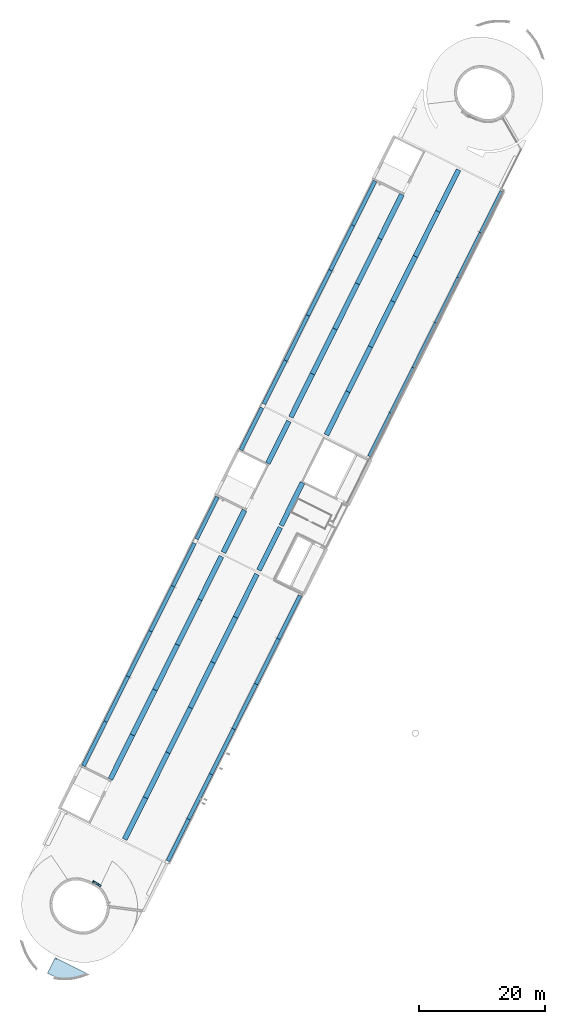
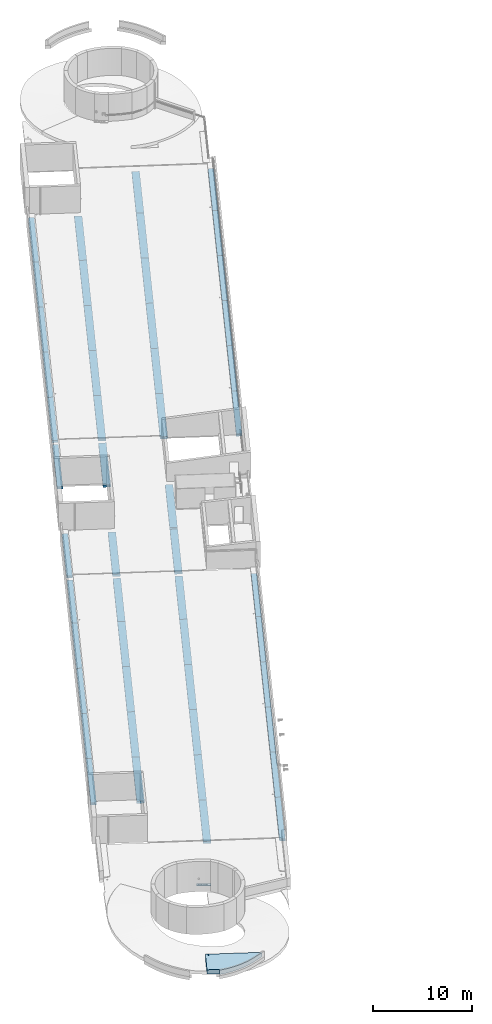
# One storey, part 1 of 34: 50 beams, 2 slabs, 5 openings.
"""IFC2X3 building model written with IfcOpenShell, lengths in metres."""

from ifc_helpers import new_model, entity, si_unit, converted_unit, derived_unit, direction, frame, frame_2d, origin, origin_2d_with_axis, place, context, subcontext, project, spatial, polyline, circle_curve, parameter, trimmed, segment, composite_curve, rectangle, circle, outline, extrude, material, layer, layer_set, layer_usage, element, save


model = new_model("IFC2X3")

# Units and contexts
model_context = context("Model", 3, precision=1e-05, world=origin(), true_north=direction((0.894925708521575, 0.446215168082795)))
context_of_model = context(None, 3, precision=1e-05, world=origin(), true_north=direction((0.894925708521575, 0.446215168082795)))
body_context = subcontext(model_context, "Body", "Model", "MODEL_VIEW")
ifc_project = project(units=[si_unit("LENGTHUNIT", "METRE"), si_unit("AREAUNIT", "SQUARE_METRE"), si_unit("VOLUMEUNIT", "CUBIC_METRE"), converted_unit("PLANEANGLEUNIT", "DEGREE", entity("IfcRatioMeasure", 0.0174532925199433), si_unit("PLANEANGLEUNIT", "RADIAN"), dimensions=[0, 0, 0, 0, 0, 0, 0]), si_unit("MASSUNIT", "GRAM", prefix="KILO"), si_unit("TIMEUNIT", "SECOND"), si_unit("FREQUENCYUNIT", "HERTZ"), si_unit("THERMODYNAMICTEMPERATUREUNIT", "DEGREE_CELSIUS"), derived_unit("THERMALTRANSMITTANCEUNIT", [(si_unit("MASSUNIT", "GRAM", prefix="KILO"), 1), (si_unit("THERMODYNAMICTEMPERATUREUNIT", "KELVIN"), -1), (si_unit("TIMEUNIT", "SECOND"), -3)]), derived_unit("VOLUMETRICFLOWRATEUNIT", [(si_unit("LENGTHUNIT", "METRE"), 3), (si_unit("TIMEUNIT", "SECOND"), -1)]), si_unit("ELECTRICCURRENTUNIT", "AMPERE"), si_unit("ELECTRICVOLTAGEUNIT", "VOLT"), si_unit("POWERUNIT", "WATT"), si_unit("FORCEUNIT", "NEWTON", prefix="KILO"), si_unit("ILLUMINANCEUNIT", "LUX"), si_unit("LUMINOUSFLUXUNIT", "LUMEN"), si_unit("LUMINOUSINTENSITYUNIT", "CANDELA"), si_unit("PRESSUREUNIT", "PASCAL")], contexts=[model_context, context_of_model])

# Site, building, storey
site_placement = place(None, frame((218.228324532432, 584.720189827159, 0.0), z_axis=(0.0, 0.0, 1.0), x_axis=(0.446215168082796, 0.894925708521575, 0.0)))
site = spatial("IfcSite", under=ifc_project, at=site_placement, Name="Default", CompositionType="ELEMENT")
building_placement = place(site_placement, origin())
building = spatial("IfcBuilding", under=site, at=building_placement, CompositionType="ELEMENT")
storey_placement = place(building_placement, frame((0.0, 0.0, 8.61)))
storey = spatial("IfcBuildingStorey", under=building, at=storey_placement, Name="2 - Piano Secondo", CompositionType="ELEMENT", Elevation=8.61)

# Beams
beam_1_placement = place(storey_placement, frame((-52.8544493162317, 5.81892100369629, -0.4)))
element("IfcBeam", 1, at=beam_1_placement, inside=storey, Name="Prefabbricato - Trave rettangolare:TRave pref - 60 x 26", ObjectType="Prefabbricato - Trave rettangolare:TRave pref - 60 x 26", context=body_context, shape_type="SweptSolid", body=[
    extrude(rectangle(XDim=0.259999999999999, YDim=0.600000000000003, at=frame_2d((0.0, 2.54518628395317e-14), x_axis=(1.0, 0.0))), frame((0.154999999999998, 0.0, -0.130000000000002), z_axis=(1.0, 0.0, 0.0), x_axis=(0.0, 0.0, -1.0)), (0.0, 0.0, 1.0), 7.844),
])
beam_2_placement = place(storey_placement, frame((-44.8544493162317, 5.81892100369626, -0.4)))
element("IfcBeam", 2, at=beam_2_placement, inside=storey, Name="Prefabbricato - Trave rettangolare:TRave pref - 60 x 26", ObjectType="Prefabbricato - Trave rettangolare:TRave pref - 60 x 26", context=body_context, shape_type="SweptSolid", body=[
    extrude(rectangle(XDim=0.259999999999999, YDim=0.600000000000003, at=frame_2d((0.0, 2.49245069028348e-14), x_axis=(1.0, 0.0))), frame((0.000298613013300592, 0.0, -0.130000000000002), z_axis=(1.0, 0.0, 0.0), x_axis=(0.0, 0.0, -1.0)), (0.0, 0.0, 1.0), 8.00600000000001),
])
for number, where in (
    (3, (-36.587852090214, 5.81892100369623, -0.4)),
    (4, (-28.5822204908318, 5.81892100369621, -0.4)),
):
    element("IfcBeam", number, at=place(storey_placement, frame(where)), inside=storey, Name="Prefabbricato - Trave rettangolare:TRave pref - 60 x 26", ObjectType="Prefabbricato - Trave rettangolare:TRave pref - 60 x 26", context=body_context, shape_type="SweptSolid", body=[
        extrude(rectangle(XDim=0.259999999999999, YDim=0.600000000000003, at=frame_2d((0.0, 2.49245069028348e-14), x_axis=(1.0, 0.0))), frame((-0.259593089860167, 0.0, -0.130000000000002), z_axis=(1.0, 0.0, 0.0), x_axis=(0.0, 0.0, -1.0)), (0.0, 0.0, 1.0), 8.002),
    ])
beam_3_placement = place(storey_placement, frame((-20.5643716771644, 5.81892100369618, -0.4)))
element("IfcBeam", 5, at=beam_3_placement, inside=storey, Name="Prefabbricato - Trave rettangolare:TRave pref - 60 x 26", ObjectType="Prefabbricato - Trave rettangolare:TRave pref - 60 x 26", context=body_context, shape_type="SweptSolid", body=[
    extrude(rectangle(XDim=0.259999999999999, YDim=0.600000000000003, at=frame_2d((0.0, 2.32869279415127e-14), x_axis=(1.0, 0.0))), frame((-0.260000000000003, 0.0, -0.130000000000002), z_axis=(1.0, 0.0, 0.0), x_axis=(0.0, 0.0, -1.0)), (0.0, 0.0, 1.0), 7.62),
])
beam_4_placement = place(storey_placement, frame((11.4942149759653, 5.81892100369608, -0.4)))
element("IfcBeam", 6, at=beam_4_placement, inside=storey, Name="Prefabbricato - Trave rettangolare:TRave pref - 60 x 26", ObjectType="Prefabbricato - Trave rettangolare:TRave pref - 60 x 26", context=body_context, shape_type="SweptSolid", body=[
    extrude(rectangle(XDim=0.259999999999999, YDim=0.600000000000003, at=frame_2d((0.0, 2.54518628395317e-14), x_axis=(1.0, 0.0))), frame((0.0, 0.0, -0.130000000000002), z_axis=(1.0, 0.0, 0.0), x_axis=(0.0, 0.0, -1.0)), (0.0, 0.0, 1.0), 7.68),
])
beam_5_placement = place(storey_placement, frame((26.9090451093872, 5.81892100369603, -0.4), z_axis=(0.0, 0.0, 1.0), x_axis=(-1.0, 0.0, 0.0)))
element("IfcBeam", 7, at=beam_5_placement, inside=storey, Name="Prefabbricato - Trave rettangolare:TRave pref - 60 x 26", ObjectType="Prefabbricato - Trave rettangolare:TRave pref - 60 x 26", context=body_context, shape_type="SweptSolid", body=[
    extrude(rectangle(XDim=0.259999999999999, YDim=0.600000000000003, at=frame_2d((0.0, 2.49245069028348e-14), x_axis=(1.0, 0.0))), frame((-0.259892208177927, 0.0, -0.130000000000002), z_axis=(1.0, 0.0, 0.0), x_axis=(0.0, 0.0, -1.0)), (0.0, 0.0, 1.0), 7.993),
])
beam_6_placement = place(storey_placement, frame((27.4290451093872, 5.81892100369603, -0.4)))
element("IfcBeam", 8, at=beam_6_placement, inside=storey, Name="Prefabbricato - Trave rettangolare:TRave pref - 60 x 26", ObjectType="Prefabbricato - Trave rettangolare:TRave pref - 60 x 26", context=body_context, shape_type="SweptSolid", body=[
    extrude(rectangle(XDim=0.259999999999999, YDim=0.600000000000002, at=frame_2d((0.0, 2.48967513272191e-14), x_axis=(1.0, 0.0))), frame((-0.260000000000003, 0.0, -0.130000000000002), z_axis=(1.0, 0.0, 0.0), x_axis=(0.0, 0.0, -1.0)), (0.0, 0.0, 1.0), 8.01000000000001),
])
beam_7_placement = place(storey_placement, frame((42.8996023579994, 5.81892100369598, -0.4), z_axis=(0.0, 0.0, 1.0), x_axis=(-1.0, 0.0, 0.0)))
element("IfcBeam", 9, at=beam_7_placement, inside=storey, Name="Prefabbricato - Trave rettangolare:TRave pref - 60 x 26", ObjectType="Prefabbricato - Trave rettangolare:TRave pref - 60 x 26", context=body_context, shape_type="SweptSolid", body=[
    extrude(rectangle(XDim=0.259999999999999, YDim=0.600000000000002, at=frame_2d((0.0, 2.48967513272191e-14), x_axis=(1.0, 0.0))), frame((-0.249946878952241, 0.0, -0.130000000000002), z_axis=(1.0, 0.0, 0.0), x_axis=(0.0, 0.0, -1.0)), (0.0, 0.0, 1.0), 7.9705041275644),
])
beam_8_placement = place(storey_placement, frame((43.4199369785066, 5.81892100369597, -0.4)))
element("IfcBeam", 10, at=beam_8_placement, inside=storey, Name="Prefabbricato - Trave rettangolare:TRave pref - 60 x 26", ObjectType="Prefabbricato - Trave rettangolare:TRave pref - 60 x 26", context=body_context, shape_type="SweptSolid", body=[
    extrude(rectangle(XDim=0.259999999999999, YDim=0.600000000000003, at=frame_2d((0.0, 2.48967513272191e-14), x_axis=(1.0, 0.0))), frame((-0.259500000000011, 0.0, -0.130000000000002), z_axis=(1.0, 0.0, 0.0), x_axis=(0.0, 0.0, -1.0)), (0.0, 0.0, 1.0), 7.844),
])
beam_9_placement = place(storey_placement, frame((3.159214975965, 5.81892100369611, -0.4)))
element("IfcBeam", 11, at=beam_9_placement, inside=storey, Name="Prefabbricato - Trave rettangolare:TRave pref - 60 x 26", ObjectType="Prefabbricato - Trave rettangolare:TRave pref - 60 x 26", context=body_context, shape_type="SweptSolid", body=[
    extrude(rectangle(XDim=0.259999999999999, YDim=0.600000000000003, at=frame_2d((0.0, 2.38142838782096e-14), x_axis=(1.0, 0.0))), frame((0.155274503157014, 0.0, -0.130000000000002), z_axis=(1.0, 0.0, 0.0), x_axis=(0.0, 0.0, -1.0)), (0.0, 0.0, 1.0), 7.494),
])
beam_10_placement = place(storey_placement, frame((19.1758295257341, -5.25107899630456, -0.4), z_axis=(0.0, 0.0, 1.0), x_axis=(-1.0, 0.0, 0.0)))
element("IfcBeam", 12, at=beam_10_placement, inside=storey, Name="Prefabbricato - Trave rettangolare:TRave pref - 80 x 26", ObjectType="Prefabbricato - Trave rettangolare:TRave pref - 80 x 26", context=body_context, shape_type="SweptSolid", body=[
    extrude(rectangle(XDim=0.259999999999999, YDim=0.800000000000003, at=frame_2d((0.0, 2.54518628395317e-14), x_axis=(1.0, 0.0))), frame((0.000307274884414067, 0.0, -0.130000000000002), z_axis=(1.0, 0.0, 0.0), x_axis=(0.0, 0.0, -1.0)), (0.0, 0.0, 1.0), 7.676),
])
beam_11_placement = place(storey_placement, frame((11.4942149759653, -12.9010789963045, -0.4)))
element("IfcBeam", 13, at=beam_11_placement, inside=storey, Name="Prefabbricato - Trave rettangolare:TRave pref - 60 x 26", ObjectType="Prefabbricato - Trave rettangolare:TRave pref - 60 x 26", context=body_context, shape_type="SweptSolid", body=[
    extrude(rectangle(XDim=0.259999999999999, YDim=0.600000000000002, at=frame_2d((0.0, 2.49245069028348e-14), x_axis=(1.0, 0.0))), frame((0.00050000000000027, 0.0, -0.130000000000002), z_axis=(1.0, 0.0, 0.0), x_axis=(0.0, 0.0, -1.0)), (0.0, 0.0, 1.0), 7.679),
])
beam_12_placement = place(storey_placement, frame((51.1583430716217, -5.25107899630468, -0.4)))
element("IfcBeam", 14, at=beam_12_placement, inside=storey, Name="Prefabbricato - Trave rettangolare:TRave pref - 80 x 26", ObjectType="Prefabbricato - Trave rettangolare:TRave pref - 80 x 26", context=body_context, shape_type="SweptSolid", body=[
    extrude(rectangle(XDim=0.259999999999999, YDim=0.800000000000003, at=frame_2d((0.0, 4.81836792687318e-14), x_axis=(1.0, 0.0))), frame((0.000999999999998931, 0.0, -0.130000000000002), z_axis=(1.0, 0.0, 0.0), x_axis=(0.0, 0.0, -1.0)), (0.0, 0.0, 1.0), 7.37660000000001),
])
beam_13_placement = place(storey_placement, frame((51.1542149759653, -12.9010789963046, -0.4)))
element("IfcBeam", 15, at=beam_13_placement, inside=storey, Name="Prefabbricato - Trave rettangolare:TRave pref - 60 x 26", ObjectType="Prefabbricato - Trave rettangolare:TRave pref - 60 x 26", context=body_context, shape_type="SweptSolid", body=[
    extrude(rectangle(XDim=0.259999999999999, YDim=0.600000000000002, at=frame_2d((0.0, 2.49245069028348e-14), x_axis=(1.0, 0.0))), frame((0.000111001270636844, 0.0, -0.130000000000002), z_axis=(1.0, 0.0, 0.0), x_axis=(0.0, 0.0, -1.0)), (0.0, 0.0, 1.0), 7.38200000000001),
])
beam_14_placement = place(storey_placement, frame((43.1596023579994, 1.04892100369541, -0.4)))
element("IfcBeam", 16, at=beam_14_placement, inside=storey, Name="Prefabbricato - Trave rettangolare:TRave pref - 80 x 26", ObjectType="Prefabbricato - Trave rettangolare:TRave pref - 80 x 26", context=body_context, shape_type="SweptSolid", body=[
    extrude(rectangle(XDim=0.259999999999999, YDim=0.800000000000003, at=frame_2d((0.0, 2.49245069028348e-14), x_axis=(1.0, 0.0))), frame((0.000167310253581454, 0.0, -0.130000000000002), z_axis=(1.0, 0.0, 0.0), x_axis=(0.0, 0.0, -1.0)), (0.0, 0.0, 1.0), 7.83600000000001),
])
beam_15_placement = place(storey_placement, frame((-20.8386212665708, -5.25107899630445, -0.4)))
element("IfcBeam", 17, at=beam_15_placement, inside=storey, Name="Prefabbricato - Trave rettangolare:TRave pref - 80 x 26", ObjectType="Prefabbricato - Trave rettangolare:TRave pref - 80 x 26", context=body_context, shape_type="SweptSolid", body=[
    extrude(rectangle(XDim=0.259999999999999, YDim=0.800000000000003, at=frame_2d((0.0, 2.08444372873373e-14), x_axis=(1.0, 0.0))), frame((0.000124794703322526, 0.0, -0.130000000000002), z_axis=(1.0, 0.0, 0.0), x_axis=(0.0, 0.0, -1.0)), (0.0, 0.0, 1.0), 7.654),
])
beam_16_placement = place(storey_placement, frame((-20.8386212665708, 1.04892100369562, -0.4)))
element("IfcBeam", 18, at=beam_16_placement, inside=storey, Name="Prefabbricato - Trave rettangolare:TRave pref - 80 x 26", ObjectType="Prefabbricato - Trave rettangolare:TRave pref - 80 x 26", context=body_context, shape_type="SweptSolid", body=[
    extrude(rectangle(XDim=0.259999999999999, YDim=0.800000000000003, at=frame_2d((0.0, -5.4570237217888e-13), x_axis=(1.0, 0.0))), frame((0.000124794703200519, 0.0, -0.130000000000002), z_axis=(1.0, 0.0, 0.0), x_axis=(0.0, 0.0, -1.0)), (0.0, 0.0, 1.0), 7.654),
])
beam_17_placement = place(storey_placement, frame((-12.4824338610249, 5.81892100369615, -0.4)))
element("IfcBeam", 19, at=beam_17_placement, inside=storey, Name="Prefabbricato - Trave rettangolare:TRave pref - 60 x 26", ObjectType="Prefabbricato - Trave rettangolare:TRave pref - 60 x 26", context=body_context, shape_type="SweptSolid", body=[
    extrude(rectangle(XDim=0.259999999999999, YDim=0.600000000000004, at=frame_2d((0.0, 2.32869279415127e-14), x_axis=(1.0, 0.0))), frame((0.0, 0.0, -0.130000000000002), z_axis=(1.0, 0.0, 0.0), x_axis=(0.0, 0.0, -1.0)), (0.0, 0.0, 1.0), 7.48),
])
beam_18_placement = place(storey_placement, frame((-12.4843716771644, 1.04892100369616, -0.4)))
element("IfcBeam", 20, at=beam_18_placement, inside=storey, Name="Prefabbricato - Trave rettangolare:TRave pref - 80 x 26", ObjectType="Prefabbricato - Trave rettangolare:TRave pref - 80 x 26", context=body_context, shape_type="SweptSolid", body=[
    extrude(rectangle(XDim=0.259999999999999, YDim=0.800000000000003, at=frame_2d((0.0, 2.35644836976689e-14), x_axis=(1.0, 0.0))), frame((0.0, 0.0, -0.130000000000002), z_axis=(1.0, 0.0, 0.0), x_axis=(0.0, 0.0, -1.0)), (0.0, 0.0, 1.0), 7.498),
])
beam_19_placement = place(storey_placement, frame((-13.4443716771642, -12.9010789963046, -0.4), z_axis=(0.0, 0.0, 1.0), x_axis=(-1.0, 0.0, 0.0)))
element("IfcBeam", 21, at=beam_19_placement, inside=storey, Name="Prefabbricato - Trave rettangolare:TRave pref - 60 x 26", ObjectType="Prefabbricato - Trave rettangolare:TRave pref - 60 x 26", context=body_context, shape_type="SweptSolid", body=[
    extrude(rectangle(XDim=0.259999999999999, YDim=0.600000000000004, at=frame_2d((0.0, 2.48967513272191e-14), x_axis=(1.0, 0.0))), frame((-0.259500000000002, 0.0, -0.130000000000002), z_axis=(1.0, 0.0, 0.0), x_axis=(0.0, 0.0, -1.0)), (0.0, 0.0, 1.0), 7.659),
])
beam_20_placement = place(storey_placement, frame((-60.2237614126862, -5.25107899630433, -0.4)))
element("IfcBeam", 22, at=beam_20_placement, inside=storey, Name="Prefabbricato - Trave rettangolare:TRave pref - 80 x 26", ObjectType="Prefabbricato - Trave rettangolare:TRave pref - 80 x 26", context=body_context, shape_type="SweptSolid", body=[
    extrude(rectangle(XDim=0.259999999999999, YDim=0.800000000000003, at=frame_2d((0.0, 2.11219930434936e-14), x_axis=(1.0, 0.0))), frame((0.0, 0.0, -0.130000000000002), z_axis=(1.0, 0.0, 0.0), x_axis=(0.0, 0.0, -1.0)), (0.0, 0.0, 1.0), 7.37900000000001),
])
beam_21_placement = place(storey_placement, frame((-52.6975115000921, 1.04892100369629, -0.4)))
element("IfcBeam", 23, at=beam_21_placement, inside=storey, Name="Prefabbricato - Trave rettangolare:TRave pref - 80 x 26", ObjectType="Prefabbricato - Trave rettangolare:TRave pref - 80 x 26", context=body_context, shape_type="SweptSolid", body=[
    extrude(rectangle(XDim=0.259999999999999, YDim=0.800000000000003, at=frame_2d((0.0, 5.95024030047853e-13), x_axis=(1.0, 0.0))), frame((0.000422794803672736, 0.0, -0.130000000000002), z_axis=(1.0, 0.0, 0.0), x_axis=(0.0, 0.0, -1.0)), (0.0, 0.0, 1.0), 7.84600000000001),
])
beam_22_placement = place(storey_placement, frame((-12.4829583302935, -5.25107899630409, -0.4)))
element("IfcBeam", 24, at=beam_22_placement, inside=storey, Name="Prefabbricato - Trave rettangolare:TRave pref - 80 x 26", ObjectType="Prefabbricato - Trave rettangolare:TRave pref - 80 x 26", context=body_context, shape_type="SweptSolid", body=[
    extrude(rectangle(XDim=0.259999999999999, YDim=0.800000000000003, at=frame_2d((0.0, 2.40918396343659e-14), x_axis=(1.0, 0.0))), frame((0.0, 0.0, -0.130000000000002), z_axis=(1.0, 0.0, 0.0), x_axis=(0.0, 0.0, -1.0)), (0.0, 0.0, 1.0), 7.605),
])
beam_23_placement = place(storey_placement, frame((-44.8506659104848, 1.04892100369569, -0.4)))
element("IfcBeam", 25, at=beam_23_placement, inside=storey, Name="Prefabbricato - Trave rettangolare:TRave pref - 80 x 26", ObjectType="Prefabbricato - Trave rettangolare:TRave pref - 80 x 26", context=body_context, shape_type="SweptSolid", body=[
    extrude(rectangle(XDim=0.259999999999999, YDim=0.800000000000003, at=frame_2d((0.0, 2.59237076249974e-14), x_axis=(1.0, 0.0))), frame((0.000406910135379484, 0.0, -0.130000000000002), z_axis=(1.0, 0.0, 0.0), x_axis=(0.0, 0.0, -1.0)), (0.0, 0.0, 1.0), 8.002),
])
beam_24_placement = place(storey_placement, frame((-36.847852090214, 1.04892100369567, -0.4)))
element("IfcBeam", 26, at=beam_24_placement, inside=storey, Name="Prefabbricato - Trave rettangolare:TRave pref - 80 x 26", ObjectType="Prefabbricato - Trave rettangolare:TRave pref - 80 x 26", context=body_context, shape_type="SweptSolid", body=[
    extrude(rectangle(XDim=0.259999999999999, YDim=0.800000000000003, at=frame_2d((0.0, 2.59237076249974e-14), x_axis=(1.0, 0.0))), frame((0.000315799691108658, 0.0, -0.130000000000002), z_axis=(1.0, 0.0, 0.0), x_axis=(0.0, 0.0, -1.0)), (0.0, 0.0, 1.0), 8.005),
])
beam_25_placement = place(storey_placement, frame((-28.8422204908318, 1.04892100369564, -0.4)))
element("IfcBeam", 27, at=beam_25_placement, inside=storey, Name="Prefabbricato - Trave rettangolare:TRave pref - 80 x 26", ObjectType="Prefabbricato - Trave rettangolare:TRave pref - 80 x 26", context=body_context, shape_type="SweptSolid", body=[
    extrude(rectangle(XDim=0.259999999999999, YDim=0.800000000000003, at=frame_2d((0.0, 2.59237076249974e-14), x_axis=(1.0, 0.0))), frame((0.000299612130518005, 0.0, -0.130000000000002), z_axis=(1.0, 0.0, 0.0), x_axis=(0.0, 0.0, -1.0)), (0.0, 0.0, 1.0), 8.003),
])
beam_26_placement = place(storey_placement, frame((-20.8443716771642, -12.9010789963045, -0.4), z_axis=(0.0, 0.0, 1.0), x_axis=(-1.0, 0.0, 0.0)))
element("IfcBeam", 28, at=beam_26_placement, inside=storey, Name="Prefabbricato - Trave rettangolare:TRave pref - 60 x 26", ObjectType="Prefabbricato - Trave rettangolare:TRave pref - 60 x 26", context=body_context, shape_type="SweptSolid", body=[
    extrude(rectangle(XDim=0.259999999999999, YDim=0.600000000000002, at=frame_2d((0.0, 2.70616862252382e-14), x_axis=(1.0, 0.0))), frame((0.000999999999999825, 0.0, -0.130000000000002), z_axis=(1.0, 0.0, 0.0), x_axis=(0.0, 0.0, -1.0)), (0.0, 0.0, 1.0), 7.999),
])
beam_27_placement = place(storey_placement, frame((-28.8443716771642, -12.9010789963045, -0.4), z_axis=(0.0, 0.0, 1.0), x_axis=(-1.0, 0.0, 0.0)))
element("IfcBeam", 29, at=beam_27_placement, inside=storey, Name="Prefabbricato - Trave rettangolare:TRave pref - 60 x 26", ObjectType="Prefabbricato - Trave rettangolare:TRave pref - 60 x 26", context=body_context, shape_type="SweptSolid", body=[
    extrude(rectangle(XDim=0.259999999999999, YDim=0.600000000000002, at=frame_2d((0.0, 2.70616862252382e-14), x_axis=(1.0, 0.0))), frame((0.000249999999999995, 0.0, -0.130000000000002), z_axis=(1.0, 0.0, 0.0), x_axis=(0.0, 0.0, -1.0)), (0.0, 0.0, 1.0), 8.0),
])
beam_28_placement = place(storey_placement, frame((-36.8448716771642, -12.9010789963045, -0.4), z_axis=(0.0, 0.0, 1.0), x_axis=(-1.0, 0.0, 0.0)))
element("IfcBeam", 30, at=beam_28_placement, inside=storey, Name="Prefabbricato - Trave rettangolare:TRave pref - 60 x 26", ObjectType="Prefabbricato - Trave rettangolare:TRave pref - 60 x 26", context=body_context, shape_type="SweptSolid", body=[
    extrude(rectangle(XDim=0.259999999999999, YDim=0.600000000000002, at=frame_2d((0.0, 2.70616862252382e-14), x_axis=(1.0, 0.0))), frame((0.00012500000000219, 0.0, -0.130000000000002), z_axis=(1.0, 0.0, 0.0), x_axis=(0.0, 0.0, -1.0)), (0.0, 0.0, 1.0), 8.0),
])
beam_29_placement = place(storey_placement, frame((-44.8451216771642, -12.9010789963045, -0.4), z_axis=(0.0, 0.0, 1.0), x_axis=(-1.0, 0.0, 0.0)))
element("IfcBeam", 31, at=beam_29_placement, inside=storey, Name="Prefabbricato - Trave rettangolare:TRave pref - 60 x 26", ObjectType="Prefabbricato - Trave rettangolare:TRave pref - 60 x 26", context=body_context, shape_type="SweptSolid", body=[
    extrude(rectangle(XDim=0.259999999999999, YDim=0.600000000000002, at=frame_2d((0.0, 2.70616862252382e-14), x_axis=(1.0, 0.0))), frame((6.2499999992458e-05, 0.0, -0.130000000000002), z_axis=(1.0, 0.0, 0.0), x_axis=(0.0, 0.0, -1.0)), (0.0, 0.0, 1.0), 7.999),
])
beam_30_placement = place(storey_placement, frame((-52.8442466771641, -12.9010789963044, -0.4), z_axis=(0.0, 0.0, 1.0), x_axis=(-1.0, 0.0, 0.0)))
element("IfcBeam", 32, at=beam_30_placement, inside=storey, Name="Prefabbricato - Trave rettangolare:TRave pref - 60 x 26", ObjectType="Prefabbricato - Trave rettangolare:TRave pref - 60 x 26", context=body_context, shape_type="SweptSolid", body=[
    extrude(rectangle(XDim=0.259999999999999, YDim=0.600000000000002, at=frame_2d((0.0, 2.49245069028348e-14), x_axis=(1.0, 0.0))), frame((6.25000000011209e-05, 0.0, -0.130000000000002), z_axis=(1.0, 0.0, 0.0), x_axis=(0.0, 0.0, -1.0)), (0.0, 0.0, 1.0), 7.38000000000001),
])
beam_31_placement = place(storey_placement, frame((-52.8437614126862, -5.25107899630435, -0.4)))
element("IfcBeam", 33, at=beam_31_placement, inside=storey, Name="Prefabbricato - Trave rettangolare:TRave pref - 80 x 26", ObjectType="Prefabbricato - Trave rettangolare:TRave pref - 80 x 26", context=body_context, shape_type="SweptSolid", body=[
    extrude(rectangle(XDim=0.259999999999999, YDim=0.800000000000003, at=frame_2d((0.0, 2.51743070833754e-14), x_axis=(1.0, 0.0))), frame((4.77511007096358e-05, 0.0, -0.130000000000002), z_axis=(1.0, 0.0, 0.0), x_axis=(0.0, 0.0, -1.0)), (0.0, 0.0, 1.0), 7.993),
])
beam_32_placement = place(storey_placement, frame((-36.847852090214, -5.2510789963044, -0.4)))
element("IfcBeam", 34, at=beam_32_placement, inside=storey, Name="Prefabbricato - Trave rettangolare:TRave pref - 80 x 26", ObjectType="Prefabbricato - Trave rettangolare:TRave pref - 80 x 26", context=body_context, shape_type="SweptSolid", body=[
    extrude(rectangle(XDim=0.259999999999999, YDim=0.800000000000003, at=frame_2d((0.0, 2.54518628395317e-14), x_axis=(1.0, 0.0))), frame((0.000315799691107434, 0.0, -0.130000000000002), z_axis=(1.0, 0.0, 0.0), x_axis=(0.0, 0.0, -1.0)), (0.0, 0.0, 1.0), 8.005),
])
beam_33_placement = place(storey_placement, frame((-44.8506659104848, -5.25107899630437, -0.4)))
element("IfcBeam", 35, at=beam_33_placement, inside=storey, Name="Prefabbricato - Trave rettangolare:TRave pref - 80 x 26", ObjectType="Prefabbricato - Trave rettangolare:TRave pref - 80 x 26", context=body_context, shape_type="SweptSolid", body=[
    extrude(rectangle(XDim=0.259999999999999, YDim=0.800000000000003, at=frame_2d((0.0, 2.54518628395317e-14), x_axis=(1.0, 0.0))), frame((0.0004069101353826, 0.0, -0.130000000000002), z_axis=(1.0, 0.0, 0.0), x_axis=(0.0, 0.0, -1.0)), (0.0, 0.0, 1.0), 8.002),
])
beam_34_placement = place(storey_placement, frame((-28.8422204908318, -5.25107899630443, -0.4)))
element("IfcBeam", 36, at=beam_34_placement, inside=storey, Name="Prefabbricato - Trave rettangolare:TRave pref - 80 x 26", ObjectType="Prefabbricato - Trave rettangolare:TRave pref - 80 x 26", context=body_context, shape_type="SweptSolid", body=[
    extrude(rectangle(XDim=0.259999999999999, YDim=0.800000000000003, at=frame_2d((0.0, 2.51743070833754e-14), x_axis=(1.0, 0.0))), frame((0.000299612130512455, 0.0, -0.130000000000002), z_axis=(1.0, 0.0, 0.0), x_axis=(0.0, 0.0, -1.0)), (0.0, 0.0, 1.0), 8.003),
])
beam_35_placement = place(storey_placement, frame((19.1742149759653, -12.9010789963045, -0.4)))
element("IfcBeam", 37, at=beam_35_placement, inside=storey, Name="Prefabbricato - Trave rettangolare:TRave pref - 60 x 26", ObjectType="Prefabbricato - Trave rettangolare:TRave pref - 60 x 26", context=body_context, shape_type="SweptSolid", body=[
    extrude(rectangle(XDim=0.259999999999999, YDim=0.600000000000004, at=frame_2d((0.0, 2.48967513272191e-14), x_axis=(1.0, 0.0))), frame((0.000499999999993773, 0.0, -0.130000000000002), z_axis=(1.0, 0.0, 0.0), x_axis=(0.0, 0.0, -1.0)), (0.0, 0.0, 1.0), 7.999),
])
for number, where in (
    (38, (27.1742149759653, -12.9010789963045, -0.4)),
    (39, (35.1742149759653, -12.9010789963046, -0.4)),
):
    element("IfcBeam", number, at=place(storey_placement, frame(where)), inside=storey, Name="Prefabbricato - Trave rettangolare:TRave pref - 60 x 26", ObjectType="Prefabbricato - Trave rettangolare:TRave pref - 60 x 26", context=body_context, shape_type="SweptSolid", body=[
        extrude(rectangle(XDim=0.259999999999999, YDim=0.600000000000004, at=frame_2d((0.0, 2.48967513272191e-14), x_axis=(1.0, 0.0))), frame((0.0, 0.0, -0.130000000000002), z_axis=(1.0, 0.0, 0.0), x_axis=(0.0, 0.0, -1.0)), (0.0, 0.0, 1.0), 7.999),
    ])
beam_36_placement = place(storey_placement, frame((43.1742149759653, -12.9010789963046, -0.4)))
element("IfcBeam", 40, at=beam_36_placement, inside=storey, Name="Prefabbricato - Trave rettangolare:TRave pref - 60 x 26", ObjectType="Prefabbricato - Trave rettangolare:TRave pref - 60 x 26", context=body_context, shape_type="SweptSolid", body=[
    extrude(rectangle(XDim=0.259999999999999, YDim=0.600000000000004, at=frame_2d((0.0, 2.48967513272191e-14), x_axis=(1.0, 0.0))), frame((0.0, 0.0, -0.130000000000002), z_axis=(1.0, 0.0, 0.0), x_axis=(0.0, 0.0, -1.0)), (0.0, 0.0, 1.0), 7.97900000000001),
])
beam_37_placement = place(storey_placement, frame((19.1758295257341, -5.25107899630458, -0.4)))
element("IfcBeam", 41, at=beam_37_placement, inside=storey, Name="Prefabbricato - Trave rettangolare:TRave pref - 80 x 26", ObjectType="Prefabbricato - Trave rettangolare:TRave pref - 80 x 26", context=body_context, shape_type="SweptSolid", body=[
    extrude(rectangle(XDim=0.259999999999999, YDim=0.800000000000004, at=frame_2d((0.0, 2.5729418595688e-14), x_axis=(1.0, 0.0))), frame((0.000107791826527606, 0.0, -0.130000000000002), z_axis=(1.0, 0.0, 0.0), x_axis=(0.0, 0.0, -1.0)), (0.0, 0.0, 1.0), 7.993),
])
beam_38_placement = place(storey_placement, frame((27.1690451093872, -5.25107899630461, -0.4)))
element("IfcBeam", 42, at=beam_38_placement, inside=storey, Name="Prefabbricato - Trave rettangolare:TRave pref - 80 x 26", ObjectType="Prefabbricato - Trave rettangolare:TRave pref - 80 x 26", context=body_context, shape_type="SweptSolid", body=[
    extrude(rectangle(XDim=0.259999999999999, YDim=0.800000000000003, at=frame_2d((0.0, 2.65343302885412e-14), x_axis=(1.0, 0.0))), frame((0.000225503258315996, 0.0, -0.130000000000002), z_axis=(1.0, 0.0, 0.0), x_axis=(0.0, 0.0, -1.0)), (0.0, 0.0, 1.0), 7.997),
])
beam_39_placement = place(storey_placement, frame((35.1664961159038, -5.25107899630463, -0.399999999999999)))
element("IfcBeam", 43, at=beam_39_placement, inside=storey, Name="Prefabbricato - Trave rettangolare:TRave pref - 80 x 26", ObjectType="Prefabbricato - Trave rettangolare:TRave pref - 80 x 26", context=body_context, shape_type="SweptSolid", body=[
    extrude(rectangle(XDim=0.259999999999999, YDim=0.800000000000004, at=frame_2d((-1.08246744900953e-15, 2.5729418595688e-14), x_axis=(1.0, 0.0))), frame((5.31210477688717e-05, 0.0, -0.130000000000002), z_axis=(1.0, 0.0, 0.0), x_axis=(0.0, 0.0, -1.0)), (0.0, 0.0, 1.0), 7.993),
])
beam_40_placement = place(storey_placement, frame((43.1596023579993, -5.25107899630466, -0.4)))
element("IfcBeam", 44, at=beam_40_placement, inside=storey, Name="Prefabbricato - Trave rettangolare:TRave pref - 80 x 26", ObjectType="Prefabbricato - Trave rettangolare:TRave pref - 80 x 26", context=body_context, shape_type="SweptSolid", body=[
    extrude(rectangle(XDim=0.259999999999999, YDim=0.800000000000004, at=frame_2d((0.0, 2.5729418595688e-14), x_axis=(1.0, 0.0))), frame((0.00037035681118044, 0.0, -0.130000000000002), z_axis=(1.0, 0.0, 0.0), x_axis=(0.0, 0.0, -1.0)), (0.0, 0.0, 1.0), 7.998),
])
beam_41_placement = place(storey_placement, frame((3.159214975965, 1.04892100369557, -0.4)))
element("IfcBeam", 45, at=beam_41_placement, inside=storey, Name="Prefabbricato - Trave rettangolare:TRave pref - 80 x 26", ObjectType="Prefabbricato - Trave rettangolare:TRave pref - 80 x 26", context=body_context, shape_type="SweptSolid", body=[
    extrude(rectangle(XDim=0.259999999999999, YDim=0.800000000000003, at=frame_2d((0.0, 2.43693953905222e-14), x_axis=(1.0, 0.0))), frame((0.15527450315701, 0.0, -0.130000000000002), z_axis=(1.0, 0.0, 0.0), x_axis=(0.0, 0.0, -1.0)), (0.0, 0.0, 1.0), 7.494),
])
beam_42_placement = place(storey_placement, frame((19.1758295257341, 1.04892100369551, -0.4), z_axis=(0.0, 0.0, 1.0), x_axis=(-1.0, 0.0, 0.0)))
element("IfcBeam", 46, at=beam_42_placement, inside=storey, Name="Prefabbricato - Trave rettangolare:TRave pref - 80 x 26", ObjectType="Prefabbricato - Trave rettangolare:TRave pref - 80 x 26", context=body_context, shape_type="SweptSolid", body=[
    extrude(rectangle(XDim=0.259999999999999, YDim=0.800000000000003, at=frame_2d((0.0, 2.46469511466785e-14), x_axis=(1.0, 0.0))), frame((0.000307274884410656, 0.0, -0.130000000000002), z_axis=(1.0, 0.0, 0.0), x_axis=(0.0, 0.0, -1.0)), (0.0, 0.0, 1.0), 7.676),
])
beam_43_placement = place(storey_placement, frame((19.1758295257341, 1.04892100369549, -0.4)))
element("IfcBeam", 47, at=beam_43_placement, inside=storey, Name="Prefabbricato - Trave rettangolare:TRave pref - 80 x 26", ObjectType="Prefabbricato - Trave rettangolare:TRave pref - 80 x 26", context=body_context, shape_type="SweptSolid", body=[
    extrude(rectangle(XDim=0.259999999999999, YDim=0.800000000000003, at=frame_2d((0.0, 2.59237076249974e-14), x_axis=(1.0, 0.0))), frame((0.000107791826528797, 0.0, -0.130000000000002), z_axis=(1.0, 0.0, 0.0), x_axis=(0.0, 0.0, -1.0)), (0.0, 0.0, 1.0), 7.993),
])
beam_44_placement = place(storey_placement, frame((27.1690451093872, 1.04892100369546, -0.4)))
element("IfcBeam", 48, at=beam_44_placement, inside=storey, Name="Prefabbricato - Trave rettangolare:TRave pref - 80 x 26", ObjectType="Prefabbricato - Trave rettangolare:TRave pref - 80 x 26", context=body_context, shape_type="SweptSolid", body=[
    extrude(rectangle(XDim=0.259999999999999, YDim=0.800000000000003, at=frame_2d((0.0, 2.59237076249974e-14), x_axis=(1.0, 0.0))), frame((0.000225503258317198, 0.0, -0.130000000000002), z_axis=(1.0, 0.0, 0.0), x_axis=(0.0, 0.0, -1.0)), (0.0, 0.0, 1.0), 7.997),
])
beam_45_placement = place(storey_placement, frame((35.1664961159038, 1.04892100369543, -0.4)))
element("IfcBeam", 49, at=beam_45_placement, inside=storey, Name="Prefabbricato - Trave rettangolare:TRave pref - 80 x 26", ObjectType="Prefabbricato - Trave rettangolare:TRave pref - 80 x 26", context=body_context, shape_type="SweptSolid", body=[
    extrude(rectangle(XDim=0.259999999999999, YDim=0.800000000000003, at=frame_2d((0.0, 2.59237076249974e-14), x_axis=(1.0, 0.0))), frame((5.31210477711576e-05, 0.0, -0.130000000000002), z_axis=(1.0, 0.0, 0.0), x_axis=(0.0, 0.0, -1.0)), (0.0, 0.0, 1.0), 7.993),
])
beam_46_placement = place(storey_placement, frame((3.16421497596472, -5.25107899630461, -0.4), z_axis=(0.0, 0.0, 1.0), x_axis=(-1.0, 0.0, 0.0)))
element("IfcBeam", 50, at=beam_46_placement, inside=storey, Name="Prefabbricato - Trave rettangolare:TRave pref - 80 x 26", ObjectType="Prefabbricato - Trave rettangolare:TRave pref - 80 x 26", context=body_context, shape_type="SweptSolid", body=[
    extrude(rectangle(XDim=0.259999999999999, YDim=0.800000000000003, at=frame_2d((0.0, 2.43693953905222e-14), x_axis=(1.0, 0.0))), frame((0.150293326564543, 0.0, -0.130000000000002), z_axis=(1.0, 0.0, 0.0), x_axis=(0.0, 0.0, -1.0)), (0.0, 0.0, 1.0), 7.598),
])

# Slab, opening
ifc_material_1 = material(Name="Asfalto, bitume")
ifc_layer_1 = layer(ifc_material_1, 0.01)
ifc_material_2 = material(Name="Sabbia e Calcestruzzo")
ifc_layer_2 = layer(ifc_material_2, 0.18)
ifc_material_3 = material(Name="Calcestruzzo")
ifc_layer_3 = layer(ifc_material_3, 0.35)
ifc_layer_set_1 = layer_set([ifc_layer_1, ifc_layer_2, ifc_layer_3], Name="Pavimento:CA-caldana - 54 cm")
ifc_layer_usage_1 = layer_usage(ifc_layer_set_1, "AXIS3", "POSITIVE", 0.0)
slab_1_placement = place(storey_placement, frame((-84.8441530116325, -9.49178459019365, 0.340000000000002)))
slab_1 = element("IfcSlab", 51, at=slab_1_placement, inside=storey, material=ifc_layer_usage_1, Name="Pavimento:CA-caldana - 54 cm", ObjectType="Pavimento:CA-caldana - 54 cm", PredefinedType="FLOOR", context=body_context, shape_type="SweptSolid", body=[
    extrude(outline(composite_curve([segment(trimmed(circle_curve(frame_2d((-12.7415756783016, 9.57523147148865), x_axis=(-1.0, 0.0)), 16.8031286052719), [parameter(132.21142354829)], [parameter(136.826537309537)], True, "PARAMETER"), True, "CONTINUOUS"), segment(trimmed(circle_curve(frame_2d((-6.1917229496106, 3.50372242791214), x_axis=(-1.0, 0.0)), 7.8724142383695), [parameter(136.436382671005)], [parameter(166.158511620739)], True, "PARAMETER"), True, "CONTINUOUS"), segment(polyline([(1.45208662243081, 1.62035279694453), (1.30791337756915, 1.62035279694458)]), True, "CONTINUOUS"), segment(polyline([(1.30791337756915, 1.62035279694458), (1.30791337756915, 2.87035279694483)]), True, "CONTINUOUS"), segment(polyline([(1.30791337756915, 2.87035279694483), (-1.45208662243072, 2.87035279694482)]), True, "CONTINUOUS"), segment(polyline([(-1.45208662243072, 2.87035279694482), (-1.45208662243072, -2.87035279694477)]), True, "CONTINUOUS")], self_intersect=False)), frame((1.45208662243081, 2.87035279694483, 0.539999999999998), z_axis=(0.0, 0.0, -1.0), x_axis=(-1.0, 0.0, 0.0)), (0.0, 0.0, 1.0), 0.54),
])
opening_1_placement = place(slab_1_placement, frame((2.7397936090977, 5.45618718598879, 0.539999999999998)))
element("IfcOpeningElement", 52, at=opening_1_placement, cuts=slab_1, Name="Pavimento:CA-caldana - 54 cm:2", ObjectType="Opening", context=body_context, shape_type="SweptSolid", body=[
    extrude(circle(Radius=0.0600000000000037, at=origin_2d_with_axis()), frame((0.0, 0.0, 0.0), z_axis=(0.0, 0.0, -1.0), x_axis=(1.0, 0.0, 0.0)), (0.0, 0.0, 1.0), 0.54),
])

# Slab, openings
ifc_layer_4 = layer(ifc_material_1, 0.01)
ifc_layer_5 = layer(ifc_material_2, 0.09)
ifc_layer_set_2 = layer_set([ifc_layer_4, ifc_layer_5], Name="Pavimento:Marciapiede - 10 cm")
ifc_layer_usage_2 = layer_usage(ifc_layer_set_2, "AXIS3", "POSITIVE", 0.0)
slab_2_placement = place(storey_placement, frame((-68.7092661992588, -5.16597733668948, 0.0)))
slab_2 = element("IfcSlab", 53, at=slab_2_placement, inside=storey, material=ifc_layer_usage_2, Name="Pavimento:Marciapiede - 10 cm", ObjectType="Pavimento:Marciapiede - 10 cm", PredefinedType="FLOOR", context=body_context, shape_type="SweptSolid", body=[
    extrude(outline(composite_curve([segment(polyline([(0.101929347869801, 0.74607218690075), (-0.236655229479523, 0.714847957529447)]), True, "CONTINUOUS"), segment(polyline([(-0.236655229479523, 0.714847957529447), (-0.101929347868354, -0.746072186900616)]), True, "CONTINUOUS"), segment(polyline([(-0.101929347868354, -0.746072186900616), (0.207725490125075, -0.717515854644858)]), True, "CONTINUOUS"), segment(trimmed(circle_curve(frame_2d((3.69542363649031, 0.306214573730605), x_axis=(-1.0, 0.0)), 3.63484007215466), [parameter(16.2404120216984)], [parameter(16.3583405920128)], True, "PARAMETER"), False, "CONTINUOUS"), segment(trimmed(circle_curve(frame_2d((8.86715350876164, 0.638262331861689), x_axis=(-1.0, 0.0)), 8.7658871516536), [parameter(359.295313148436)], [parameter(8.84987961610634)], True, "PARAMETER"), False, "CONTINUOUS")], self_intersect=False)), frame((0.207725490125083, 0.746072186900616, 0.0999999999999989), z_axis=(0.0, 0.0, -1.0), x_axis=(-1.0, 0.0, 0.0)), (0.0, 0.0, 1.0), 0.1),
])
opening_2_placement = place(slab_2_placement, frame((0.177039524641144, 0.739898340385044, 0.0999999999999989)))
element("IfcOpeningElement", 54, at=opening_2_placement, cuts=slab_2, Name="Pavimento:Marciapiede - 10 cm:2", ObjectType="Opening", context=body_context, shape_type="SweptSolid", body=[
    extrude(circle(Radius=0.045, at=origin_2d_with_axis()), frame((0.0, 0.0, 0.0), z_axis=(0.0, 0.0, -1.0), x_axis=(1.0, 0.0, 0.0)), (0.0, 0.0, 1.0), 0.1),
])
opening_3_placement = place(slab_2_placement, frame((0.171679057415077, 0.464898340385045, 0.0999999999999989)))
element("IfcOpeningElement", 55, at=opening_3_placement, cuts=slab_2, Name="Pavimento:Marciapiede - 10 cm:3", ObjectType="Opening", context=body_context, shape_type="SweptSolid", body=[
    extrude(circle(Radius=0.085, at=origin_2d_with_axis()), frame((0.0, 0.0, 0.0), z_axis=(0.0, 0.0, -1.0), x_axis=(1.0, 0.0, 0.0)), (0.0, 0.0, 1.0), 0.1),
])
opening_4_placement = place(slab_2_placement, frame((0.226859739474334, 1.28013125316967, 0.0999999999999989)))
element("IfcOpeningElement", 56, at=opening_4_placement, cuts=slab_2, Name="Pavimento:Marciapiede - 10 cm:4", ObjectType="Opening", context=body_context, shape_type="SweptSolid", body=[
    extrude(circle(Radius=0.0800000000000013, at=origin_2d_with_axis()), frame((0.0, 0.0, 0.0), z_axis=(0.0, 0.0, -1.0), x_axis=(1.0, 0.0, 0.0)), (0.0, 0.0, 1.0), 0.1),
])
opening_5_placement = place(slab_2_placement, frame((0.202399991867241, 1.01489834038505, 0.0999999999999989)))
element("IfcOpeningElement", 57, at=opening_5_placement, cuts=slab_2, Name="Pavimento:Marciapiede - 10 cm:5", ObjectType="Opening", context=body_context, shape_type="SweptSolid", body=[
    extrude(circle(Radius=0.0749999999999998, at=origin_2d_with_axis()), frame((0.0, 0.0, 0.0), z_axis=(0.0, 0.0, -1.0), x_axis=(1.0, 0.0, 0.0)), (0.0, 0.0, 1.0), 0.1),
])

save(model, "model.ifc")
